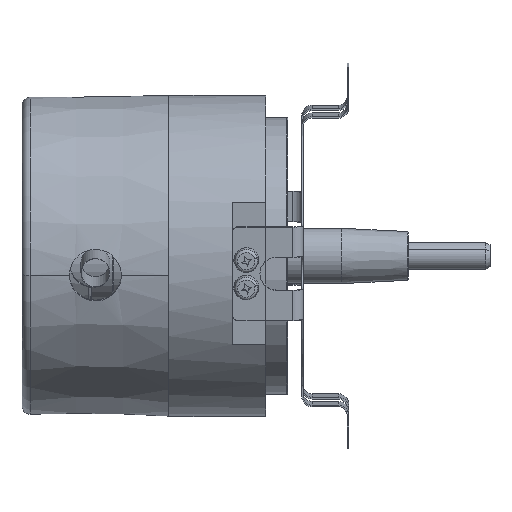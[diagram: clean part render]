
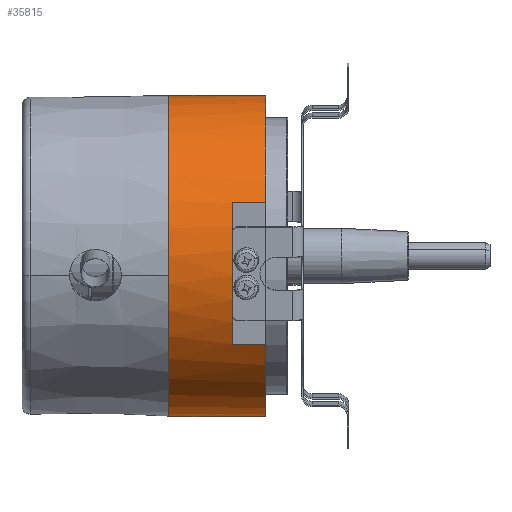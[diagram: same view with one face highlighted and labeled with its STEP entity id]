
A CAD part, front view. The second image highlights one B-rep face of the part: STEP entity #35815.
In plain terms, the highlighted cylindrical face has radius 29 mm (diameter 58 mm), a partial arc.
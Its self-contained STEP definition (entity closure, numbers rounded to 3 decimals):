
#3990 = LINE ( 'NONE', #3991, #27527 ) ;
#3991 = CARTESIAN_POINT ( 'NONE',  ( -1.393, 0., 29. ) ) ;
#3992 = DIRECTION ( 'NONE',  ( -1., 0., 0. ) ) ;
#4413 = LINE ( 'NONE', #4414, #28044 ) ;
#4414 = CARTESIAN_POINT ( 'NONE',  ( -1.393, 0., -29. ) ) ;
#4415 = DIRECTION ( 'NONE',  ( -1., 0., 0. ) ) ;
#7089 = CARTESIAN_POINT ( 'NONE',  ( 25., -27.372, 9.581 ) ) ;
#7094 = CARTESIAN_POINT ( 'NONE',  ( 19., -24.241, -15.918 ) ) ;
#9024 = EDGE_CURVE ( 'NONE', #20884, #21213, #3990, .T. ) ;
#9150 = EDGE_CURVE ( 'NONE', #21235, #21170, #4413, .T. ) ;
#16100 = ORIENTED_EDGE ( 'NONE', *, *, #24168, .F. ) ;
#16214 = ORIENTED_EDGE ( 'NONE', *, *, #24147, .T. ) ;
#16236 = ORIENTED_EDGE ( 'NONE', *, *, #9024, .T. ) ;
#16238 = ORIENTED_EDGE ( 'NONE', *, *, #24150, .F. ) ;
#16306 = ORIENTED_EDGE ( 'NONE', *, *, #24154, .T. ) ;
#16357 = ORIENTED_EDGE ( 'NONE', *, *, #24149, .T. ) ;
#16659 = ORIENTED_EDGE ( 'NONE', *, *, #24143, .F. ) ;
#16681 = ORIENTED_EDGE ( 'NONE', *, *, #9150, .F. ) ;
#20665 = VERTEX_POINT ( 'NONE', #7089 ) ;
#20674 = VERTEX_POINT ( 'NONE', #7094 ) ;
#20884 = VERTEX_POINT ( 'NONE', #37105 ) ;
#20918 = VERTEX_POINT ( 'NONE', #37127 ) ;
#21159 = VERTEX_POINT ( 'NONE', #37310 ) ;
#21170 = VERTEX_POINT ( 'NONE', #37319 ) ;
#21213 = VERTEX_POINT ( 'NONE', #37362 ) ;
#21235 = VERTEX_POINT ( 'NONE', #37384 ) ;
#22466 = EDGE_LOOP ( 'NONE', ( #16681, #16306, #16659, #16100, #16357, #16214, #16236, #16238 ) ) ;
#24143 = EDGE_CURVE ( 'NONE', #20674, #20918, #30131, .T. ) ;
#24147 = EDGE_CURVE ( 'NONE', #20665, #20884, #32598, .T. ) ;
#24149 = EDGE_CURVE ( 'NONE', #21159, #20665, #30150, .T. ) ;
#24150 = EDGE_CURVE ( 'NONE', #21170, #21213, #32372, .T. ) ;
#24154 = EDGE_CURVE ( 'NONE', #21235, #20918, #32398, .T. ) ;
#24168 = EDGE_CURVE ( 'NONE', #21159, #20674, #32312, .T. ) ;
#24355 = AXIS2_PLACEMENT_3D ( 'NONE', #30245, #30246, #30247 ) ;
#24415 = AXIS2_PLACEMENT_3D ( 'NONE', #30161, #30165, #30166 ) ;
#24475 = AXIS2_PLACEMENT_3D ( 'NONE', #30149, #30153, #30154 ) ;
#24522 = VECTOR ( 'NONE', #30152, 1000. ) ;
#24540 = VECTOR ( 'NONE', #30133, 1000. ) ;
#24613 = AXIS2_PLACEMENT_3D ( 'NONE', #30139, #30143, #30144 ) ;
#27527 = VECTOR ( 'NONE', #3992, 1000. ) ;
#28044 = VECTOR ( 'NONE', #4415, 1000. ) ;
#30131 = LINE ( 'NONE', #30132, #24540 ) ;
#30132 = CARTESIAN_POINT ( 'NONE',  ( 19., -24.241, -15.918 ) ) ;
#30133 = DIRECTION ( 'NONE',  ( 1., 0., 0. ) ) ;
#30139 = CARTESIAN_POINT ( 'NONE',  ( 25., 0., 0. ) ) ;
#30143 = DIRECTION ( 'NONE',  ( -1., 0., 0. ) ) ;
#30144 = DIRECTION ( 'NONE',  ( 0., 0., 1. ) ) ;
#30149 = CARTESIAN_POINT ( 'NONE',  ( 7.5, 0., 0. ) ) ;
#30150 = LINE ( 'NONE', #30151, #24522 ) ;
#30151 = CARTESIAN_POINT ( 'NONE',  ( 19., -27.372, 9.581 ) ) ;
#30152 = DIRECTION ( 'NONE',  ( 1., 0., 0. ) ) ;
#30153 = DIRECTION ( 'NONE',  ( -1., 0., 0. ) ) ;
#30154 = DIRECTION ( 'NONE',  ( 0., 0., 1. ) ) ;
#30161 = CARTESIAN_POINT ( 'NONE',  ( 25., 0., 0. ) ) ;
#30165 = DIRECTION ( 'NONE',  ( -1., 0., 0. ) ) ;
#30166 = DIRECTION ( 'NONE',  ( 0., 0., 1. ) ) ;
#30245 = CARTESIAN_POINT ( 'NONE',  ( 19., 0., 0. ) ) ;
#30246 = DIRECTION ( 'NONE',  ( 1., 0., 0. ) ) ;
#30247 = DIRECTION ( 'NONE',  ( 0., 0., -1. ) ) ;
#32312 = CIRCLE ( 'NONE', #24355, 29. ) ;
#32372 = CIRCLE ( 'NONE', #24475, 29. ) ;
#32398 = CIRCLE ( 'NONE', #24415, 29. ) ;
#32598 = CIRCLE ( 'NONE', #24613, 29. ) ;
#35815 = ADVANCED_FACE ( 'NONE', ( #37007 ), #36996, .T. ) ;
#36984 = AXIS2_PLACEMENT_3D ( 'NONE', #38230, #38232, #38234 ) ;
#36996 = CYLINDRICAL_SURFACE ( 'NONE', #36984, 29. ) ;
#37007 = FACE_OUTER_BOUND ( 'NONE', #22466, .T. ) ;
#37105 = CARTESIAN_POINT ( 'NONE',  ( 25., 0., 29. ) ) ;
#37127 = CARTESIAN_POINT ( 'NONE',  ( 25., -24.241, -15.918 ) ) ;
#37310 = CARTESIAN_POINT ( 'NONE',  ( 19., -27.372, 9.581 ) ) ;
#37319 = CARTESIAN_POINT ( 'NONE',  ( 7.5, 0., -29. ) ) ;
#37362 = CARTESIAN_POINT ( 'NONE',  ( 7.5, 0., 29. ) ) ;
#37384 = CARTESIAN_POINT ( 'NONE',  ( 25., 0., -29. ) ) ;
#38230 = CARTESIAN_POINT ( 'NONE',  ( -1.393, 0., 0. ) ) ;
#38232 = DIRECTION ( 'NONE',  ( -1., 0., 0. ) ) ;
#38234 = DIRECTION ( 'NONE',  ( 0., 0., 1. ) ) ;
